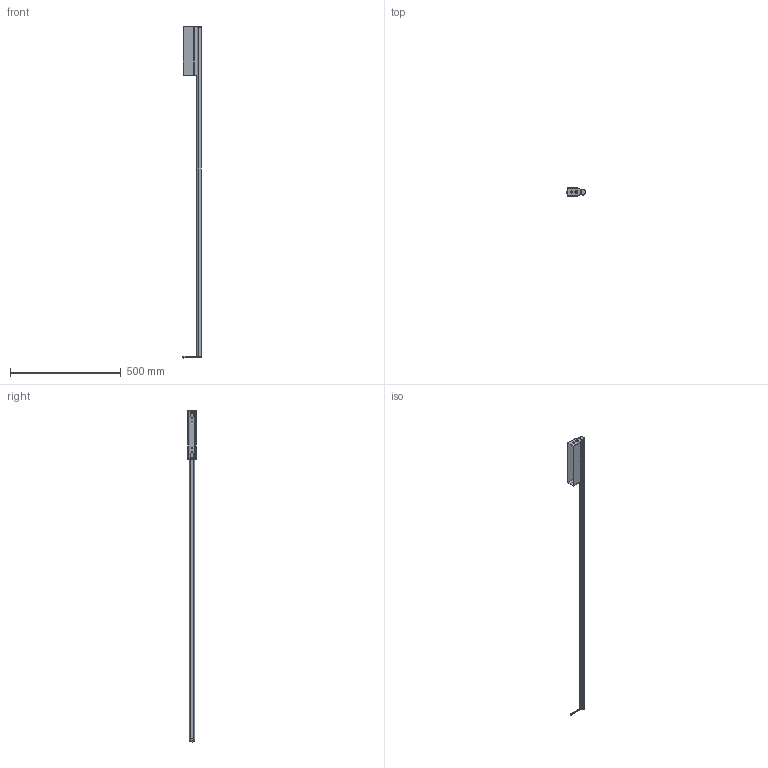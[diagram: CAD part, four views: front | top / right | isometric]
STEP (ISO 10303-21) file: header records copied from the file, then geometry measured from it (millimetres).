
FILE_DESCRIPTION(/* description */ (''),/* implementation_level */ '2;1');
FILE_NAME(/* name */ 'A110__~1',/* time_stamp */ '2024-07-02T10:52:20+02:00',/* author */ (''),/* organization */ (''),/* preprocessor_version */ 'ST-DEVELOPER v16.5',/* originating_system */ '',/* authorisation */ '');
FILE_SCHEMA (('AUTOMOTIVE_DESIGN'));
Length unit declared in the file: millimetre
Products named in the file (1): Document
Bounding box: 84.65 x 37.02 x 1497.4 mm (x, y, z)
Volume: 491156.2 mm3; surface area: 269326 mm2
Topology: 7 solids, 10 shells, 328 faces, 829 edges, 511 vertices
Faces by surface type: bspline 205, plane 123
Entity records: 13015 total; most frequent: CARTESIAN_POINT 8078, ORIENTED_EDGE 1618, EDGE_CURVE 817, VERTEX_POINT 511, B_SPLINE_CURVE_WITH_KNOTS 484, EDGE_LOOP 350, ADVANCED_FACE 328, FACE_OUTER_BOUND 328
